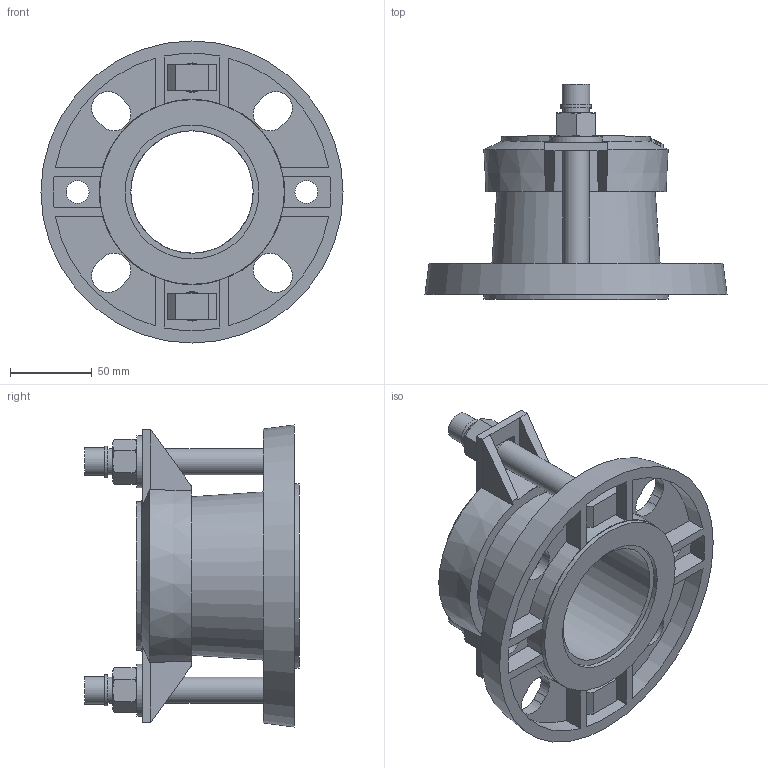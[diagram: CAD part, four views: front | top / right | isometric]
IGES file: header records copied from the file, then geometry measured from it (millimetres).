
Start section: SolidWorks IGES file using analytic representation for surfaces
Global section: file name: \\avksan2\techshare\PBM outline export from Enovia\O_623_10_DN065-75mm_X1XXXXX_REV01.igs; native system: SolidWorks 2019; preprocessor: SolidWorks 2019; author: pbm; date: 200417.102320; units: millimetre
Bounding box: 185 x 131.5 x 185 mm (x, y, z)
Surface area: 146852.8 mm2 (no closed solid volume)
Topology: 0 solids, 0 shells, 247 faces, 1198 edges, 1168 vertices
Faces by surface type: bspline 154, revolution 93
